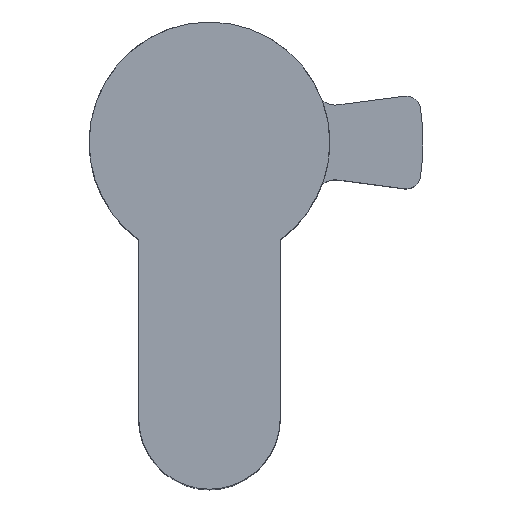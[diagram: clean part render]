
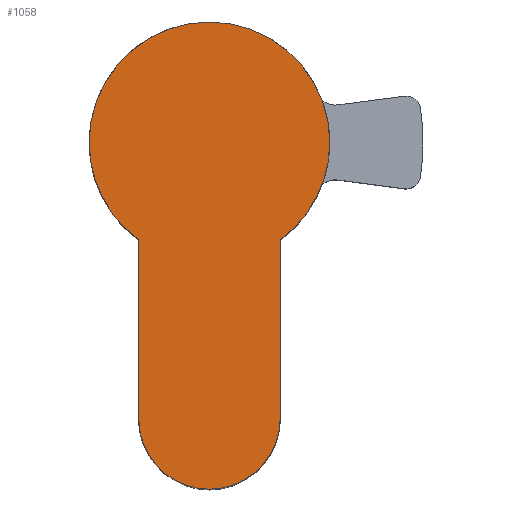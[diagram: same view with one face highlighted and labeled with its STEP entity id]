
A CAD part, top view. The second image highlights one B-rep face of the part: STEP entity #1058.
In plain terms, the highlighted planar face has unit normal (0, 0, 1).
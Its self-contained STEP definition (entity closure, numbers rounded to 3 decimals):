
#47 = DIRECTION ( 'NONE',  ( 1., 0., 0. ) ) ;
#146 = CIRCLE ( 'NONE', #922, 8.5 ) ;
#170 = ORIENTED_EDGE ( 'NONE', *, *, #1447, .T. ) ;
#243 = DIRECTION ( 'NONE',  ( 0., 0., 1. ) ) ;
#285 = ORIENTED_EDGE ( 'NONE', *, *, #1276, .T. ) ;
#288 = DIRECTION ( 'NONE',  ( 1., 0., 0. ) ) ;
#298 = ORIENTED_EDGE ( 'NONE', *, *, #1238, .T. ) ;
#317 = EDGE_CURVE ( 'NONE', #1432, #1120, #146, .T. ) ;
#349 = CARTESIAN_POINT ( 'NONE',  ( -5., -6.874, 10. ) ) ;
#374 = LINE ( 'NONE', #349, #379 ) ;
#379 = VECTOR ( 'NONE', #714, 1000. ) ;
#419 = DIRECTION ( 'NONE',  ( 1., 0., 0. ) ) ;
#424 = CARTESIAN_POINT ( 'NONE',  ( -5., -6.874, 10. ) ) ;
#431 = CARTESIAN_POINT ( 'NONE',  ( 0., 0., 10. ) ) ;
#434 = AXIS2_PLACEMENT_3D ( 'NONE', #431, #440, #1361 ) ;
#440 = DIRECTION ( 'NONE',  ( 0., 0., 1. ) ) ;
#444 = CARTESIAN_POINT ( 'NONE',  ( -5., -19.5, 10. ) ) ;
#581 = LINE ( 'NONE', #972, #697 ) ;
#584 = VERTEX_POINT ( 'NONE', #707 ) ;
#641 = CARTESIAN_POINT ( 'NONE',  ( 0., 0., 10. ) ) ;
#697 = VECTOR ( 'NONE', #1076, 1000. ) ;
#707 = CARTESIAN_POINT ( 'NONE',  ( 5., -19.5, 10. ) ) ;
#714 = DIRECTION ( 'NONE',  ( 0., -1., 0. ) ) ;
#725 = ORIENTED_EDGE ( 'NONE', *, *, #1298, .T. ) ;
#735 = EDGE_LOOP ( 'NONE', ( #170, #1362, #756, #298, #725, #285 ) ) ;
#746 = VERTEX_POINT ( 'NONE', #444 ) ;
#750 = AXIS2_PLACEMENT_3D ( 'NONE', #1313, #243, #855 ) ;
#756 = ORIENTED_EDGE ( 'NONE', *, *, #1449, .T. ) ;
#781 = CARTESIAN_POINT ( 'NONE',  ( 0., 0., 10. ) ) ;
#855 = DIRECTION ( 'NONE',  ( 1., 0., 0. ) ) ;
#865 = CARTESIAN_POINT ( 'NONE',  ( -8.5, 0., 10. ) ) ;
#878 = CIRCLE ( 'NONE', #908, 8.5 ) ;
#905 = AXIS2_PLACEMENT_3D ( 'NONE', #641, #1372, #419 ) ;
#908 = AXIS2_PLACEMENT_3D ( 'NONE', #781, #1123, #47 ) ;
#922 = AXIS2_PLACEMENT_3D ( 'NONE', #1235, #1494, #288 ) ;
#954 = VERTEX_POINT ( 'NONE', #1418 ) ;
#972 = CARTESIAN_POINT ( 'NONE',  ( 5., -19.5, 10. ) ) ;
#1029 = CARTESIAN_POINT ( 'NONE',  ( 8.5, 0., 10. ) ) ;
#1036 = CIRCLE ( 'NONE', #434, 8.5 ) ;
#1058 = ADVANCED_FACE ( 'NONE', ( #1491 ), #1223, .T. ) ;
#1076 = DIRECTION ( 'NONE',  ( 0., 1., 0. ) ) ;
#1120 = VERTEX_POINT ( 'NONE', #865 ) ;
#1123 = DIRECTION ( 'NONE',  ( 0., 0., 1. ) ) ;
#1223 = PLANE ( 'NONE',  #905 ) ;
#1235 = CARTESIAN_POINT ( 'NONE',  ( 0., 0., 10. ) ) ;
#1238 = EDGE_CURVE ( 'NONE', #1352, #746, #374, .T. ) ;
#1276 = EDGE_CURVE ( 'NONE', #584, #954, #581, .T. ) ;
#1281 = CIRCLE ( 'NONE', #750, 5. ) ;
#1298 = EDGE_CURVE ( 'NONE', #746, #584, #1281, .T. ) ;
#1313 = CARTESIAN_POINT ( 'NONE',  ( 0., -19.5, 10. ) ) ;
#1352 = VERTEX_POINT ( 'NONE', #424 ) ;
#1361 = DIRECTION ( 'NONE',  ( 1., 0., 0. ) ) ;
#1362 = ORIENTED_EDGE ( 'NONE', *, *, #317, .T. ) ;
#1372 = DIRECTION ( 'NONE',  ( 0., 0., 1. ) ) ;
#1418 = CARTESIAN_POINT ( 'NONE',  ( 5., -6.874, 10. ) ) ;
#1432 = VERTEX_POINT ( 'NONE', #1029 ) ;
#1447 = EDGE_CURVE ( 'NONE', #954, #1432, #878, .T. ) ;
#1449 = EDGE_CURVE ( 'NONE', #1120, #1352, #1036, .T. ) ;
#1491 = FACE_OUTER_BOUND ( 'NONE', #735, .T. ) ;
#1494 = DIRECTION ( 'NONE',  ( 0., 0., 1. ) ) ;
